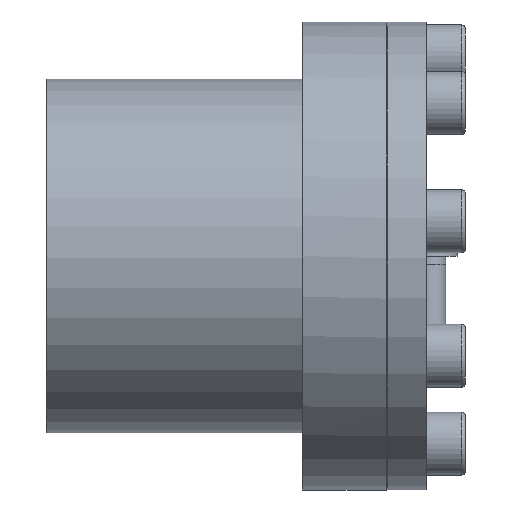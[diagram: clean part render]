
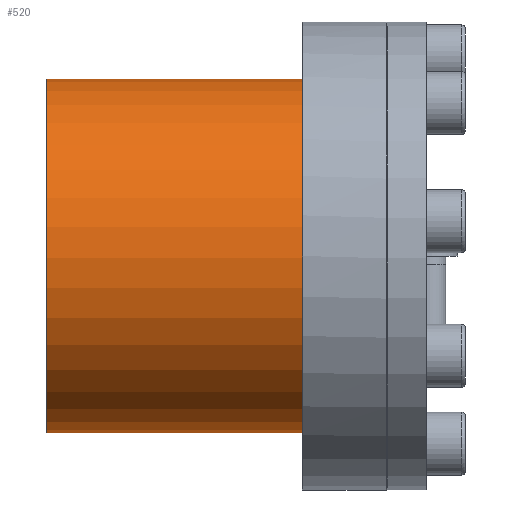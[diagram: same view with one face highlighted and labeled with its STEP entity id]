
A CAD part, left-side view. The second image highlights one B-rep face of the part: STEP entity #520.
In plain terms, the highlighted cylindrical face has radius 45 mm (diameter 90 mm), a partial arc.
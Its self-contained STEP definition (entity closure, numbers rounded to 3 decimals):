
#520 = ADVANCED_FACE( '', ( #957 ), #958, .T. );
#957 = FACE_OUTER_BOUND( '', #1603, .T. );
#958 = CYLINDRICAL_SURFACE( '', #1604, 45. );
#1603 = EDGE_LOOP( '', ( #2361, #2362, #2363, #2364 ) );
#1604 = AXIS2_PLACEMENT_3D( '', #2365, #2366, #2367 );
#2361 = ORIENTED_EDGE( '', *, *, #3767, .F. );
#2362 = ORIENTED_EDGE( '', *, *, #3757, .F. );
#2363 = ORIENTED_EDGE( '', *, *, #3786, .F. );
#2364 = ORIENTED_EDGE( '', *, *, #3800, .T. );
#2365 = CARTESIAN_POINT( '', ( 0., -60., 0. ) );
#2366 = DIRECTION( '', ( 0., 1., 0. ) );
#2367 = DIRECTION( '', ( 0., 0., -1. ) );
#3757 = EDGE_CURVE( '', #4177, #4173, #4179, .T. );
#3767 = EDGE_CURVE( '', #4173, #4195, #4196, .F. );
#3786 = EDGE_CURVE( '', #4228, #4177, #4230, .T. );
#3800 = EDGE_CURVE( '', #4228, #4195, #4251, .T. );
#4173 = VERTEX_POINT( '', #4754 );
#4177 = VERTEX_POINT( '', #4759 );
#4179 = CIRCLE( '', #4762, 45. );
#4195 = VERTEX_POINT( '', #4790 );
#4196 = LINE( '', #4791, #4792 );
#4228 = VERTEX_POINT( '', #4843 );
#4230 = LINE( '', #4846, #4847 );
#4251 = CIRCLE( '', #4872, 45. );
#4754 = CARTESIAN_POINT( '', ( 16.593, 31.5, 41.829 ) );
#4759 = CARTESIAN_POINT( '', ( 14.176, 31.5, 42.709 ) );
#4762 = AXIS2_PLACEMENT_3D( '', #5852, #5853, #5854 );
#4790 = CARTESIAN_POINT( '', ( 16.593, 96.5, 41.829 ) );
#4791 = CARTESIAN_POINT( '', ( 16.593, -60., 41.829 ) );
#4792 = VECTOR( '', #5867, 1000. );
#4843 = CARTESIAN_POINT( '', ( 14.176, 96.5, 42.709 ) );
#4846 = CARTESIAN_POINT( '', ( 14.176, -60., 42.709 ) );
#4847 = VECTOR( '', #5888, 1000. );
#4872 = AXIS2_PLACEMENT_3D( '', #5923, #5924, #5925 );
#5852 = CARTESIAN_POINT( '', ( 0., 31.5, 0. ) );
#5853 = DIRECTION( '', ( 0., -1., 0. ) );
#5854 = DIRECTION( '', ( 0., 0., -1. ) );
#5867 = DIRECTION( '', ( 0., -1., 0. ) );
#5888 = DIRECTION( '', ( 0., -1., 0. ) );
#5923 = CARTESIAN_POINT( '', ( 0., 96.5, 0. ) );
#5924 = DIRECTION( '', ( 0., -1., 0. ) );
#5925 = DIRECTION( '', ( 0., 0., -1. ) );
